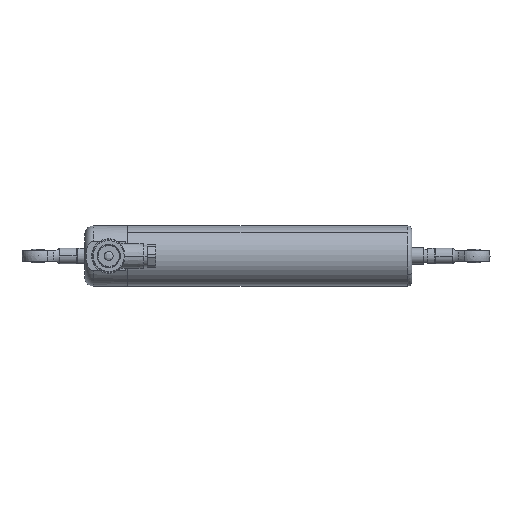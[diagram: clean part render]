
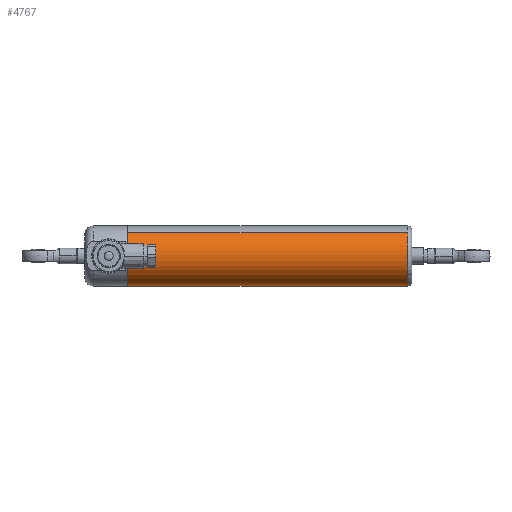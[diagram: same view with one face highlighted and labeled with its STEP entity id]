
A CAD part, front view. The second image highlights one B-rep face of the part: STEP entity #4767.
In plain terms, the highlighted cylindrical face has radius 17.5 mm (diameter 35 mm), a partial arc.
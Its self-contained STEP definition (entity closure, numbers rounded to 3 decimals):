
#252 = CYLINDRICAL_SURFACE ( 'NONE', #1596, 17.5 ) ;
#336 = ORIENTED_EDGE ( 'NONE', *, *, #2573, .F. ) ;
#366 = DIRECTION ( 'NONE',  ( 0., 0.627, -0.779 ) ) ;
#558 = EDGE_CURVE ( 'NONE', #4972, #608, #4959, .T. ) ;
#608 = VERTEX_POINT ( 'NONE', #908 ) ;
#652 = CARTESIAN_POINT ( 'NONE',  ( -41.25, -10.971, 13.634 ) ) ;
#795 = EDGE_CURVE ( 'NONE', #5217, #5972, #5558, .T. ) ;
#908 = CARTESIAN_POINT ( 'NONE',  ( -41.25, -10.971, 13.634 ) ) ;
#932 = FACE_OUTER_BOUND ( 'NONE', #5527, .T. ) ;
#962 = DIRECTION ( 'NONE',  ( -1., 0., 0. ) ) ;
#968 = CARTESIAN_POINT ( 'NONE',  ( -41.25, 10.971, -13.634 ) ) ;
#1037 = DIRECTION ( 'NONE',  ( -1., 0., 0. ) ) ;
#1596 = AXIS2_PLACEMENT_3D ( 'NONE', #3228, #962, #366 ) ;
#1863 = CARTESIAN_POINT ( 'NONE',  ( 121.75, 0., 0. ) ) ;
#1896 = ORIENTED_EDGE ( 'NONE', *, *, #4315, .T. ) ;
#2039 = CARTESIAN_POINT ( 'NONE',  ( -41.25, 0., 0. ) ) ;
#2097 = AXIS2_PLACEMENT_3D ( 'NONE', #2039, #6224, #3902 ) ;
#2219 = CARTESIAN_POINT ( 'NONE',  ( -41.25, 10.971, -13.634 ) ) ;
#2240 = ORIENTED_EDGE ( 'NONE', *, *, #558, .F. ) ;
#2314 = DIRECTION ( 'NONE',  ( -1., 0., 0. ) ) ;
#2427 = LINE ( 'NONE', #652, #3387 ) ;
#2573 = EDGE_CURVE ( 'NONE', #5217, #4972, #2740, .T. ) ;
#2740 = LINE ( 'NONE', #2219, #7097 ) ;
#3136 = CARTESIAN_POINT ( 'NONE',  ( 121.75, -10.971, 13.634 ) ) ;
#3228 = CARTESIAN_POINT ( 'NONE',  ( -41.25, 0., 0. ) ) ;
#3387 = VECTOR ( 'NONE', #2314, 1000. ) ;
#3902 = DIRECTION ( 'NONE',  ( 0., 0.627, -0.779 ) ) ;
#4315 = EDGE_CURVE ( 'NONE', #5972, #608, #2427, .T. ) ;
#4704 = DIRECTION ( 'NONE',  ( -1., 0., 0. ) ) ;
#4761 = ORIENTED_EDGE ( 'NONE', *, *, #795, .T. ) ;
#4767 = ADVANCED_FACE ( 'NONE', ( #932 ), #252, .T. ) ;
#4959 = CIRCLE ( 'NONE', #2097, 17.5 ) ;
#4972 = VERTEX_POINT ( 'NONE', #968 ) ;
#5217 = VERTEX_POINT ( 'NONE', #5924 ) ;
#5527 = EDGE_LOOP ( 'NONE', ( #4761, #1896, #2240, #336 ) ) ;
#5558 = CIRCLE ( 'NONE', #7353, 17.5 ) ;
#5872 = DIRECTION ( 'NONE',  ( 0., 0.627, -0.779 ) ) ;
#5924 = CARTESIAN_POINT ( 'NONE',  ( 121.75, 10.971, -13.634 ) ) ;
#5972 = VERTEX_POINT ( 'NONE', #3136 ) ;
#6224 = DIRECTION ( 'NONE',  ( -1., 0., 0. ) ) ;
#7097 = VECTOR ( 'NONE', #1037, 1000. ) ;
#7353 = AXIS2_PLACEMENT_3D ( 'NONE', #1863, #4704, #5872 ) ;
